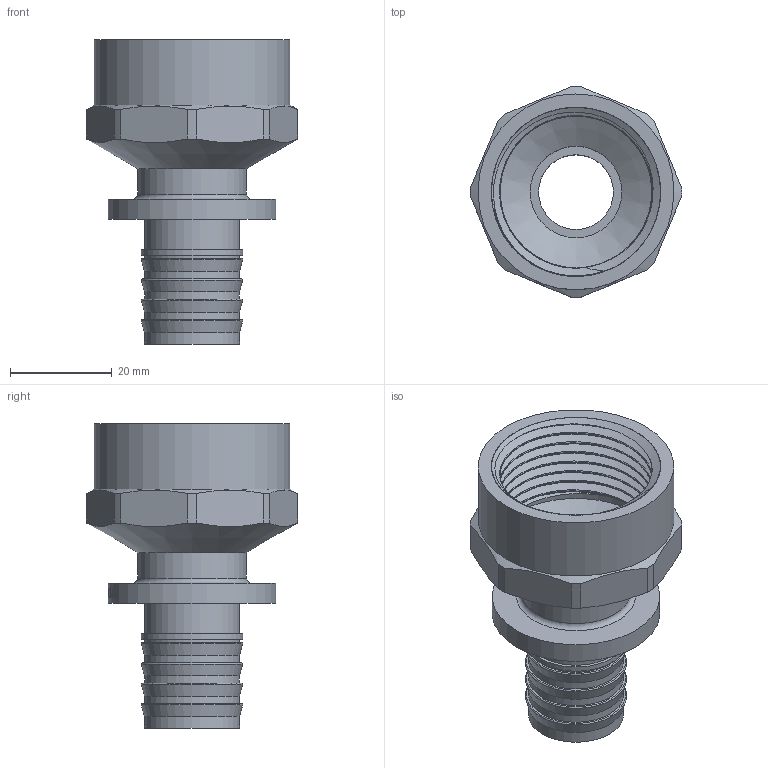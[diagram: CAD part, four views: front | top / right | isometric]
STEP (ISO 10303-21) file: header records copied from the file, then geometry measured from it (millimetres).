
FILE_DESCRIPTION(/* description */ (''),/* implementation_level */ '2;1');
FILE_NAME(/* name */ 'C:\Users\Doom\Desktop\Фадотех\Натяжка\SFM25_NEW 25x1F 29.05.2020\SFM25_NEW 25x1F 29.05.2020.stp',/* time_stamp */ '2022-07-25T15:44:23+03:00',/* author */ ('Doom'),/* organization */ (''),/* preprocessor_version */ 'ST-DEVELOPER v18',/* originating_system */ 'Autodesk Inventor 2020',/* authorisation */ '');
FILE_SCHEMA (('AUTOMOTIVE_DESIGN { 1 0 10303 214 3 1 1 }'));
Length unit declared in the file: millimetre
Products named in the file (1): SFM25_NEW 25x1F 29.05.2020
Bounding box: 41.5 x 41.5 x 59.8 mm (x, y, z)
Volume: 17089.8 mm3; surface area: 17528.7 mm2
Topology: 2 solids, 2 shells, 157 faces, 442 edges, 304 vertices
Faces by surface type: plane 57, bspline 48, cylinder 38, cone 9, torus 5
Full cylindrical faces by diameter (mm): 14.7 x1, 18 x1, 18.626 x2, 18.668 x3, 18.687 x1, 19.9 x1, 21.4 x1, 29.826 x8, 33 x1, 33.25 x2, 38.5 x1
Entity records: 10358 total; most frequent: CARTESIAN_POINT 6496, ORIENTED_EDGE 884, DIRECTION 671, EDGE_CURVE 442, VERTEX_POINT 304, AXIS2_PLACEMENT_3D 256, EDGE_LOOP 176, LINE 159
